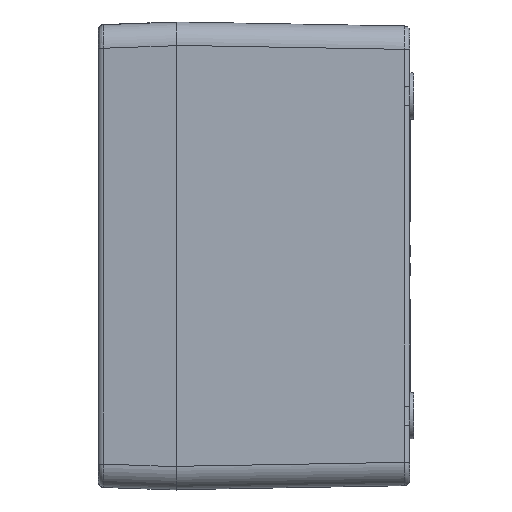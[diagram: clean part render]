
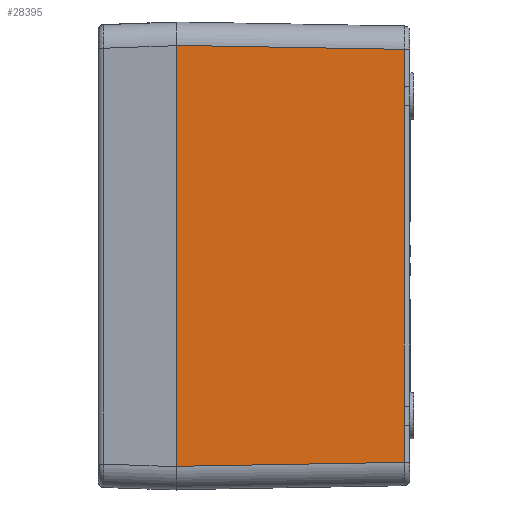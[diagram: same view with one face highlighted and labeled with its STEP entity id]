
A CAD part, left-side view. The second image highlights one B-rep face of the part: STEP entity #28395.
In plain terms, the highlighted planar face has unit normal (-1, -0.018, 0).
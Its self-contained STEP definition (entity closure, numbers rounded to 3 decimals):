
#520 = CARTESIAN_POINT ( 'NONE',  ( -108.978, 1.474, 38.554 ) ) ;
#719 = DIRECTION ( 'NONE',  ( 0., 0., 1. ) ) ;
#944 = EDGE_CURVE ( 'NONE', #22196, #22795, #27006, .T. ) ;
#984 = VECTOR ( 'NONE', #719, 1000. ) ;
#1524 = LINE ( 'NONE', #14878, #22221 ) ;
#1578 = CARTESIAN_POINT ( 'NONE',  ( -110., 60., -60. ) ) ;
#2518 = ORIENTED_EDGE ( 'NONE', *, *, #2903, .T. ) ;
#2559 = PLANE ( 'NONE',  #8852 ) ;
#2560 = ORIENTED_EDGE ( 'NONE', *, *, #26003, .T. ) ;
#2903 = EDGE_CURVE ( 'NONE', #10583, #15756, #23680, .T. ) ;
#3273 = CARTESIAN_POINT ( 'NONE',  ( -108.978, 1.474, -43.039 ) ) ;
#3617 = CARTESIAN_POINT ( 'NONE',  ( -108.978, 1.447, -39.369 ) ) ;
#3754 = CARTESIAN_POINT ( 'NONE',  ( -109.965, 58.011, 53.966 ) ) ;
#4284 = LINE ( 'NONE', #1578, #28549 ) ;
#4440 = FACE_OUTER_BOUND ( 'NONE', #23004, .T. ) ;
#4481 = ORIENTED_EDGE ( 'NONE', *, *, #27946, .T. ) ;
#4486 = CARTESIAN_POINT ( 'NONE',  ( -110.002, 60.105, -54.003 ) ) ;
#4809 = DIRECTION ( 'NONE',  ( 0., 0., 1. ) ) ;
#5625 = ORIENTED_EDGE ( 'NONE', *, *, #24430, .F. ) ;
#6416 = EDGE_CURVE ( 'NONE', #15756, #17531, #31245, .T. ) ;
#6717 = EDGE_CURVE ( 'NONE', #22795, #10583, #26410, .T. ) ;
#6807 = LINE ( 'NONE', #3754, #32929 ) ;
#6951 = CARTESIAN_POINT ( 'NONE',  ( -108.978, 1.474, 52.979 ) ) ;
#8852 = AXIS2_PLACEMENT_3D ( 'NONE', #15254, #30430, #22669 ) ;
#9309 = CARTESIAN_POINT ( 'NONE',  ( -108.978, 1.474, -60. ) ) ;
#9802 = CARTESIAN_POINT ( 'NONE',  ( -110., 60., 54.001 ) ) ;
#9993 = CARTESIAN_POINT ( 'NONE',  ( -108.978, 1.447, 42.631 ) ) ;
#10583 = VERTEX_POINT ( 'NONE', #22784 ) ;
#11905 = DIRECTION ( 'NONE',  ( 0., 0., 1. ) ) ;
#12000 = CARTESIAN_POINT ( 'NONE',  ( -108.978, 1.474, -52.979 ) ) ;
#12184 = DIRECTION ( 'NONE',  ( 0., 0., 1. ) ) ;
#12646 = VERTEX_POINT ( 'NONE', #6951 ) ;
#12848 = CARTESIAN_POINT ( 'NONE',  ( -108.978, 1.474, 38.961 ) ) ;
#13367 = CARTESIAN_POINT ( 'NONE',  ( -108.978, 1.474, -43.446 ) ) ;
#13998 = ORIENTED_EDGE ( 'NONE', *, *, #944, .T. ) ;
#14878 = CARTESIAN_POINT ( 'NONE',  ( -108.978, 1.474, -60. ) ) ;
#15237 = ORIENTED_EDGE ( 'NONE', *, *, #6717, .T. ) ;
#15254 = CARTESIAN_POINT ( 'NONE',  ( -110., 60., -60. ) ) ;
#15756 = VERTEX_POINT ( 'NONE', #520 ) ;
#16507 = VERTEX_POINT ( 'NONE', #9802 ) ;
#17095 = DIRECTION ( 'NONE',  ( -0.017, 1., 0.017 ) ) ;
#17324 = CARTESIAN_POINT ( 'NONE',  ( -108.978, 1.474, -60. ) ) ;
#17401 = CARTESIAN_POINT ( 'NONE',  ( -108.978, 1.474, 43.446 ) ) ;
#17531 = VERTEX_POINT ( 'NONE', #18085 ) ;
#18085 = CARTESIAN_POINT ( 'NONE',  ( -108.978, 1.474, 43.446 ) ) ;
#18610 = ORIENTED_EDGE ( 'NONE', *, *, #21732, .T. ) ;
#19157 = CARTESIAN_POINT ( 'NONE',  ( -108.978, 1.474, -43.446 ) ) ;
#19931 = CARTESIAN_POINT ( 'NONE',  ( -108.978, 1.474, 43.039 ) ) ;
#20694 = LINE ( 'NONE', #4486, #28191 ) ;
#21368 = CARTESIAN_POINT ( 'NONE',  ( -108.977, 1.399, -41.815 ) ) ;
#21732 = EDGE_CURVE ( 'NONE', #12646, #16507, #6807, .T. ) ;
#22096 = ORIENTED_EDGE ( 'NONE', *, *, #6416, .T. ) ;
#22196 = VERTEX_POINT ( 'NONE', #12000 ) ;
#22221 = VECTOR ( 'NONE', #12184, 1000. ) ;
#22647 = CARTESIAN_POINT ( 'NONE',  ( -110., 60., -54.001 ) ) ;
#22669 = DIRECTION ( 'NONE',  ( 0.017, -1., 0. ) ) ;
#22784 = CARTESIAN_POINT ( 'NONE',  ( -108.978, 1.474, -38.554 ) ) ;
#22795 = VERTEX_POINT ( 'NONE', #13367 ) ;
#22796 = CARTESIAN_POINT ( 'NONE',  ( -108.976, 1.36, 41. ) ) ;
#23004 = EDGE_LOOP ( 'NONE', ( #4481, #13998, #15237, #2518, #22096, #2560, #18610, #5625 ) ) ;
#23127 = CARTESIAN_POINT ( 'NONE',  ( -108.978, 1.474, 38.554 ) ) ;
#23680 = LINE ( 'NONE', #17324, #27100 ) ;
#24056 = CARTESIAN_POINT ( 'NONE',  ( -108.978, 1.447, -42.631 ) ) ;
#24430 = EDGE_CURVE ( 'NONE', #29423, #16507, #4284, .T. ) ;
#25152 = CARTESIAN_POINT ( 'NONE',  ( -108.977, 1.399, 40.185 ) ) ;
#25490 = CARTESIAN_POINT ( 'NONE',  ( -108.978, 1.447, 39.369 ) ) ;
#26003 = EDGE_CURVE ( 'NONE', #17531, #12646, #1524, .T. ) ;
#26249 = CARTESIAN_POINT ( 'NONE',  ( -108.976, 1.36, -41. ) ) ;
#26410 = B_SPLINE_CURVE_WITH_KNOTS ( 'NONE', 3,
 ( #19157, #3273, #24056, #21368, #26249, #29096, #3617, #26748, #26585 ),
 .UNSPECIFIED., .F., .F.,
 ( 4, 2, 1, 2, 4 ),
 ( 0., 0.001, 0.002, 0.004, 0.005 ),
 .UNSPECIFIED. ) ;
#26585 = CARTESIAN_POINT ( 'NONE',  ( -108.978, 1.474, -38.554 ) ) ;
#26748 = CARTESIAN_POINT ( 'NONE',  ( -108.978, 1.474, -38.961 ) ) ;
#27006 = LINE ( 'NONE', #9309, #984 ) ;
#27100 = VECTOR ( 'NONE', #4809, 1000. ) ;
#27946 = EDGE_CURVE ( 'NONE', #29423, #22196, #20694, .T. ) ;
#28191 = VECTOR ( 'NONE', #33326, 1000. ) ;
#28395 = ADVANCED_FACE ( 'NONE', ( #4440 ), #2559, .T. ) ;
#28549 = VECTOR ( 'NONE', #11905, 1000. ) ;
#29096 = CARTESIAN_POINT ( 'NONE',  ( -108.977, 1.399, -40.185 ) ) ;
#29423 = VERTEX_POINT ( 'NONE', #22647 ) ;
#30385 = CARTESIAN_POINT ( 'NONE',  ( -108.977, 1.399, 41.815 ) ) ;
#30430 = DIRECTION ( 'NONE',  ( -1., -0.017, 0. ) ) ;
#31245 = B_SPLINE_CURVE_WITH_KNOTS ( 'NONE', 3,
 ( #23127, #12848, #25490, #25152, #22796, #30385, #9993, #19931, #17401 ),
 .UNSPECIFIED., .F., .F.,
 ( 4, 2, 1, 2, 4 ),
 ( 0., 0.001, 0.002, 0.004, 0.005 ),
 .UNSPECIFIED. ) ;
#32929 = VECTOR ( 'NONE', #17095, 1000. ) ;
#33326 = DIRECTION ( 'NONE',  ( 0.017, -1., 0.017 ) ) ;
